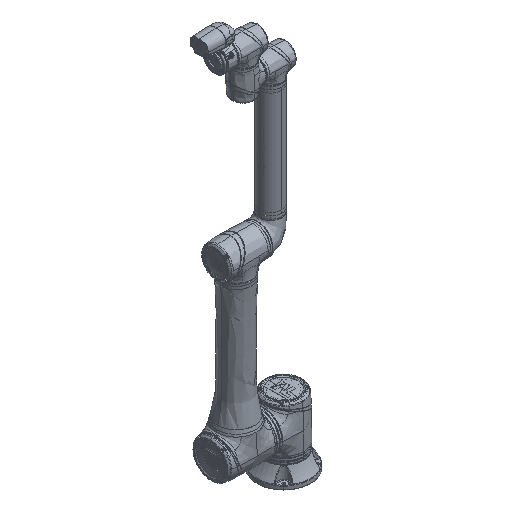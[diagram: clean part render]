
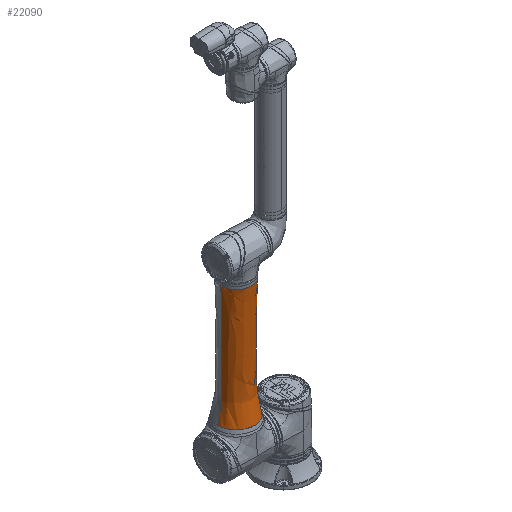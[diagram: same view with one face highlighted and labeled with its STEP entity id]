
A CAD part, isometric view. The second image highlights one B-rep face of the part: STEP entity #22090.
In plain terms, the highlighted face is a revolution surface.
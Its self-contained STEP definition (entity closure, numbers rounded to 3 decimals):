
#21750=CARTESIAN_POINT('',(0.,-271.75,0.));
#21751=DIRECTION('',(0.,1.,0.));
#21752=DIRECTION('',(0.,0.,-1.));
#21753=AXIS2_PLACEMENT_3D('',#21750,#21751,#21752);
#21770=CARTESIAN_POINT('',(0.,-271.75,57.598));
#21771=CARTESIAN_POINT('',(0.,-261.213,
57.134));
#21772=CARTESIAN_POINT('',(0.,-234.441,
56.155));
#21773=CARTESIAN_POINT('',(0.,-191.415,
55.203));
#21774=CARTESIAN_POINT('',(0.,-137.382,54.598));
#21775=CARTESIAN_POINT('',(0.,-75.724,54.284));
#21776=CARTESIAN_POINT('',(0.,-19.334,54.211));
#21777=CARTESIAN_POINT('',(0.,25.474,54.341));
#21778=CARTESIAN_POINT('',(0.,57.834,54.643));
#21779=CARTESIAN_POINT('',(0.,82.723,55.184));
#21780=CARTESIAN_POINT('',(0.,101.219,56.032));
#21781=CARTESIAN_POINT('',(0.,114.832,57.064));
#21782=CARTESIAN_POINT('',(0.,129.099,58.804));
#21783=CARTESIAN_POINT('',(0.,145.644,
61.74));
#21784=CARTESIAN_POINT('',(0.,162.501,
65.569));
#21785=CARTESIAN_POINT('',(0.,174.861,
68.689));
#21786=CARTESIAN_POINT('',(0.,178.45,69.614));
#21788=CARTESIAN_POINT('',(0.,178.45,-69.614));
#21789=CARTESIAN_POINT('',(0.,174.861,
-68.689));
#21790=CARTESIAN_POINT('',(0.,162.501,
-65.569));
#21791=CARTESIAN_POINT('',(0.,145.644,
-61.74));
#21792=CARTESIAN_POINT('',(0.,129.099,
-58.804));
#21793=CARTESIAN_POINT('',(0.,114.832,
-57.064));
#21794=CARTESIAN_POINT('',(0.,101.219,
-56.032));
#21795=CARTESIAN_POINT('',(0.,82.723,
-55.184));
#21796=CARTESIAN_POINT('',(0.,57.834,
-54.643));
#21797=CARTESIAN_POINT('',(0.,25.474,
-54.341));
#21798=CARTESIAN_POINT('',(0.,-19.334,
-54.211));
#21799=CARTESIAN_POINT('',(0.,-75.724,
-54.284));
#21800=CARTESIAN_POINT('',(0.,-137.382,
-54.598));
#21801=CARTESIAN_POINT('',(0.,-191.415,
-55.203));
#21802=CARTESIAN_POINT('',(0.,-234.441,
-56.155));
#21803=CARTESIAN_POINT('',(0.,-261.213,
-57.134));
#21804=CARTESIAN_POINT('',(0.,-271.75,-57.598));
#21806=CARTESIAN_POINT('',(0.,178.45,0.));
#21807=DIRECTION('',(0.,-1.,0.));
#21808=DIRECTION('',(0.,0.,1.));
#21809=AXIS2_PLACEMENT_3D('',#21806,#21807,#21808);
#21900=CARTESIAN_POINT('',(0.,-271.75,-57.598));
#21901=CARTESIAN_POINT('',(0.,-271.75,57.598));
#21902=VERTEX_POINT('',#21900);
#21903=VERTEX_POINT('',#21901);
#21904=VERTEX_POINT('',#21788);
#21905=CARTESIAN_POINT('',(0.,178.45,69.614));
#21906=VERTEX_POINT('',#21905);
#22057=CARTESIAN_POINT('',(0.,-276.262,-57.802));
#22058=CARTESIAN_POINT('',(0.,-274.754,-57.732));
#22059=CARTESIAN_POINT('',(0.,-262.689,-57.188));
#22060=CARTESIAN_POINT('',(0.,-234.441,-56.155));
#22061=CARTESIAN_POINT('',(0.,-191.415,-55.203));
#22062=CARTESIAN_POINT('',(0.,-137.382,-54.598));
#22063=CARTESIAN_POINT('',(0.,-75.724,-54.284));
#22064=CARTESIAN_POINT('',(0.,-19.334,-54.211));
#22065=CARTESIAN_POINT('',(0.,25.474,-54.341));
#22066=CARTESIAN_POINT('',(0.,57.834,-54.643));
#22067=CARTESIAN_POINT('',(0.,82.723,-55.184));
#22068=CARTESIAN_POINT('',(0.,101.219,-56.032));
#22069=CARTESIAN_POINT('',(0.,114.832,-57.064));
#22070=CARTESIAN_POINT('',(0.,129.099,-58.804));
#22071=CARTESIAN_POINT('',(0.,145.644,-61.74));
#22072=CARTESIAN_POINT('',(0.,162.501,-65.569));
#22073=CARTESIAN_POINT('',(0.,176.262,-69.043));
#22074=CARTESIAN_POINT('',(0.,181.489,-70.4));
#22075=CARTESIAN_POINT('',(0.,183.072,-70.814));
#22077=CARTESIAN_POINT('',(0.,-59.897,0.));
#22078=DIRECTION('',(0.,1.,0.));
#22079=AXIS1_PLACEMENT('',#22077,#22078);
#22080=SURFACE_OF_REVOLUTION('',#22076,#22079);
#22081=ORIENTED_EDGE('',*,*,#22046,.F.);
#22083=ORIENTED_EDGE('',*,*,#22082,.F.);
#22085=ORIENTED_EDGE('',*,*,#22084,.F.);
#22087=ORIENTED_EDGE('',*,*,#22086,.F.);
#22088=EDGE_LOOP('',(#22081,#22083,#22085,#22087));
#22089=FACE_OUTER_BOUND('',#22088,.F.);
#21754=CIRCLE('',#21753,57.598);
#21787=B_SPLINE_CURVE_WITH_KNOTS('',3,(#21770,#21771,#21772,#21773,#21774,
#21775,#21776,#21777,#21778,#21779,#21780,#21781,#21782,#21783,#21784,#21785,
#21786),.UNSPECIFIED.,.F.,.F.,(4,1,1,1,1,1,1,1,1,1,1,1,1,1,4),(0.,
0.085,0.218,0.352,0.486,
0.62,0.687,0.753,0.82,
0.854,0.887,0.921,0.954,
0.988,1.),.UNSPECIFIED.);
#21805=B_SPLINE_CURVE_WITH_KNOTS('',3,(#21788,#21789,#21790,#21791,#21792,
#21793,#21794,#21795,#21796,#21797,#21798,#21799,#21800,#21801,#21802,#21803,
#21804),.UNSPECIFIED.,.F.,.F.,(4,1,1,1,1,1,1,1,1,1,1,1,1,1,4),(0.,
0.012,0.046,0.079,0.113,
0.146,0.18,0.247,0.313,
0.38,0.514,0.648,0.782,
0.915,1.),.UNSPECIFIED.);
#21810=CIRCLE('',#21809,69.614);
#22046=EDGE_CURVE('',#21902,#21903,#21754,.T.);
#22076=B_SPLINE_CURVE_WITH_KNOTS('',3,(#22057,#22058,#22059,#22060,#22061,
#22062,#22063,#22064,#22065,#22066,#22067,#22068,#22069,#22070,#22071,#22072,
#22073,#22074,#22075),.UNSPECIFIED.,.F.,.F.,(4,1,1,1,1,1,1,1,1,1,1,1,1,1,1,1,4),
(0.,0.012,0.095,0.226,0.358,
0.489,0.621,0.687,0.752,
0.818,0.851,0.884,0.917,
0.95,0.983,0.995,1.),.UNSPECIFIED.);
#22082=EDGE_CURVE('',#21904,#21902,#21805,.T.);
#22084=EDGE_CURVE('',#21906,#21904,#21810,.T.);
#22086=EDGE_CURVE('',#21903,#21906,#21787,.T.);
#22090=ADVANCED_FACE('',(#22089),#22080,.T.);
